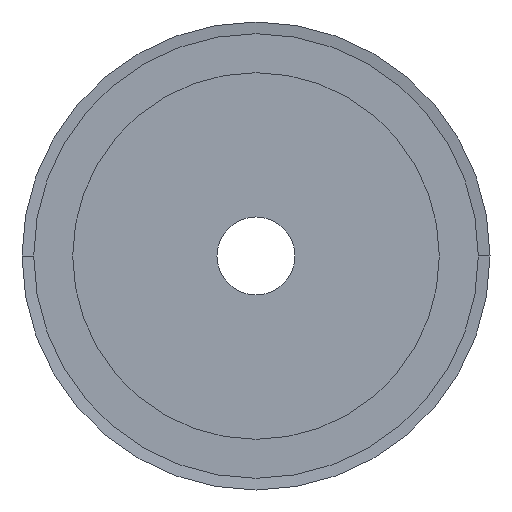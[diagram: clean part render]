
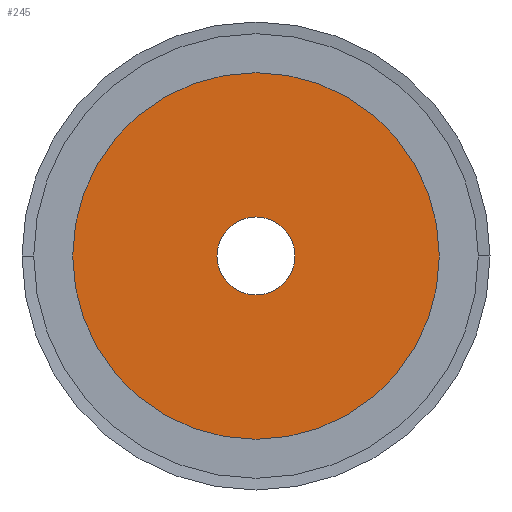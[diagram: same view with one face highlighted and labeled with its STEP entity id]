
A CAD part, left-side view. The second image highlights one B-rep face of the part: STEP entity #245.
In plain terms, the highlighted planar face has unit normal (-1, 0, 0).
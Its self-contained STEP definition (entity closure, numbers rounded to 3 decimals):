
#245 = ADVANCED_FACE( '', ( #593, #594 ), #595, .T. );
#593 = FACE_BOUND( '', #942, .T. );
#594 = FACE_OUTER_BOUND( '', #943, .T. );
#595 = PLANE( '', #944 );
#942 = EDGE_LOOP( '', ( #2419, #2420 ) );
#943 = EDGE_LOOP( '', ( #2421, #2422 ) );
#944 = AXIS2_PLACEMENT_3D( '', #2423, #2424, #2425 );
#2419 = ORIENTED_EDGE( '', *, *, #2465, .T. );
#2420 = ORIENTED_EDGE( '', *, *, #2461, .T. );
#2421 = ORIENTED_EDGE( '', *, *, #2429, .T. );
#2422 = ORIENTED_EDGE( '', *, *, #2909, .T. );
#2423 = CARTESIAN_POINT( '', ( 0., 11.75, 0. ) );
#2424 = DIRECTION( '', ( -1., 0., 0. ) );
#2425 = DIRECTION( '', ( 0., 1., 0. ) );
#2429 = EDGE_CURVE( '', #2911, #2915, #2917, .T. );
#2461 = EDGE_CURVE( '', #2975, #2972, #2976, .T. );
#2465 = EDGE_CURVE( '', #2972, #2975, #2981, .T. );
#2909 = EDGE_CURVE( '', #2915, #2911, #3713, .T. );
#2911 = VERTEX_POINT( '', #3715 );
#2915 = VERTEX_POINT( '', #3720 );
#2917 = CIRCLE( '', #3723, 23.5 );
#2972 = VERTEX_POINT( '', #3794 );
#2975 = VERTEX_POINT( '', #3798 );
#2976 = CIRCLE( '', #3799, 5. );
#2981 = CIRCLE( '', #3805, 5. );
#3713 = CIRCLE( '', #4789, 23.5 );
#3715 = CARTESIAN_POINT( '', ( 0., 23.5, 0. ) );
#3720 = CARTESIAN_POINT( '', ( 0., -23.5, 0. ) );
#3723 = AXIS2_PLACEMENT_3D( '', #4795, #4796, #4797 );
#3794 = CARTESIAN_POINT( '', ( 0., 5., 0. ) );
#3798 = CARTESIAN_POINT( '', ( 0., -5., 0. ) );
#3799 = AXIS2_PLACEMENT_3D( '', #4857, #4858, #4859 );
#3805 = AXIS2_PLACEMENT_3D( '', #4867, #4868, #4869 );
#4789 = AXIS2_PLACEMENT_3D( '', #5695, #5696, #5697 );
#4795 = CARTESIAN_POINT( '', ( 0., 0., 0. ) );
#4796 = DIRECTION( '', ( -1., 0., 0. ) );
#4797 = DIRECTION( '', ( 0., 1., 0. ) );
#4857 = CARTESIAN_POINT( '', ( 0., 0., 0. ) );
#4858 = DIRECTION( '', ( 1., 0., 0. ) );
#4859 = DIRECTION( '', ( 0., 1., 0. ) );
#4867 = CARTESIAN_POINT( '', ( 0., 0., 0. ) );
#4868 = DIRECTION( '', ( 1., 0., 0. ) );
#4869 = DIRECTION( '', ( 0., 1., 0. ) );
#5695 = CARTESIAN_POINT( '', ( 0., 0., 0. ) );
#5696 = DIRECTION( '', ( -1., 0., 0. ) );
#5697 = DIRECTION( '', ( 0., 1., 0. ) );
